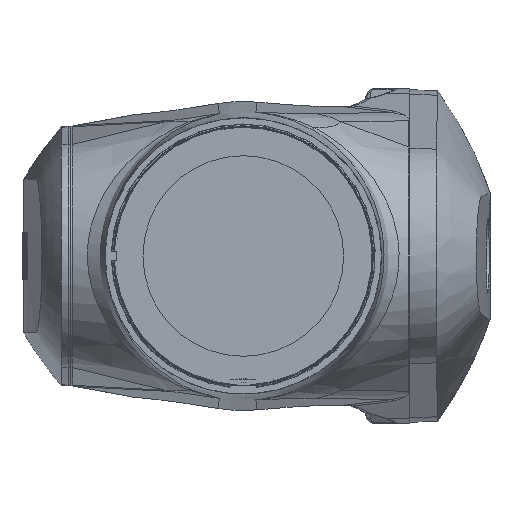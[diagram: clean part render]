
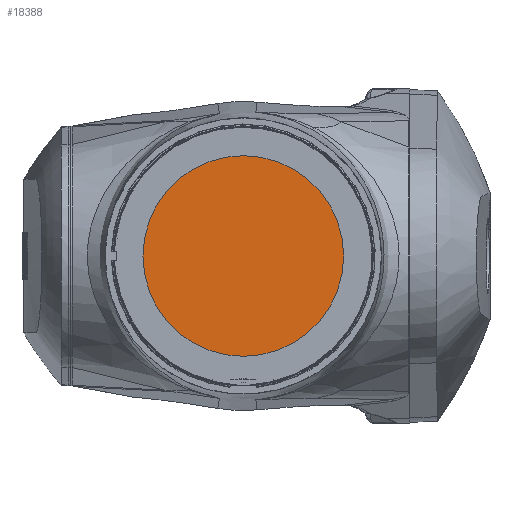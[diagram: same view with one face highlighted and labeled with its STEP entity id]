
A CAD part, left-side view. The second image highlights one B-rep face of the part: STEP entity #18388.
In plain terms, the highlighted planar face has unit normal (-1, 0, 0).
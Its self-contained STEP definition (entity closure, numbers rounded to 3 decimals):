
#5790 = AXIS2_PLACEMENT_3D ( 'NONE', #10754, #11475, #8488 ) ;
#5850 = CARTESIAN_POINT ( 'NONE',  ( 197., 0., 2205. ) ) ;
#8488 = DIRECTION ( 'NONE',  ( 0., -1., 0. ) ) ;
#10754 = CARTESIAN_POINT ( 'NONE',  ( 197., 0., 2205. ) ) ;
#11475 = DIRECTION ( 'NONE',  ( -1., 0., 0. ) ) ;
#13687 = CIRCLE ( 'NONE', #16717, 85. ) ;
#14117 = VERTEX_POINT ( 'NONE', #25868 ) ;
#14300 = DIRECTION ( 'NONE',  ( -1., 0., 0. ) ) ;
#16058 = PLANE ( 'NONE',  #5790 ) ;
#16717 = AXIS2_PLACEMENT_3D ( 'NONE', #5850, #14300, #17335 ) ;
#17335 = DIRECTION ( 'NONE',  ( 0., -1., 0. ) ) ;
#18388 = ADVANCED_FACE ( 'NONE', ( #27233 ), #16058, .T. ) ;
#21741 = EDGE_LOOP ( 'NONE', ( #32629 ) ) ;
#23163 = EDGE_CURVE ( 'NONE', #14117, #14117, #13687, .T. ) ;
#25868 = CARTESIAN_POINT ( 'NONE',  ( 197., -85., 2205. ) ) ;
#27233 = FACE_OUTER_BOUND ( 'NONE', #21741, .T. ) ;
#32629 = ORIENTED_EDGE ( 'NONE', *, *, #23163, .T. ) ;
